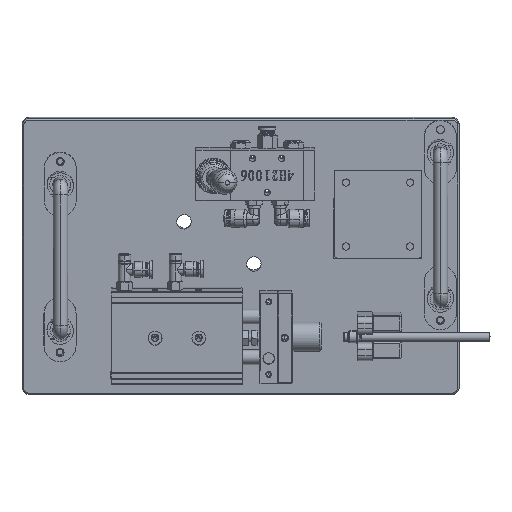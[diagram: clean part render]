
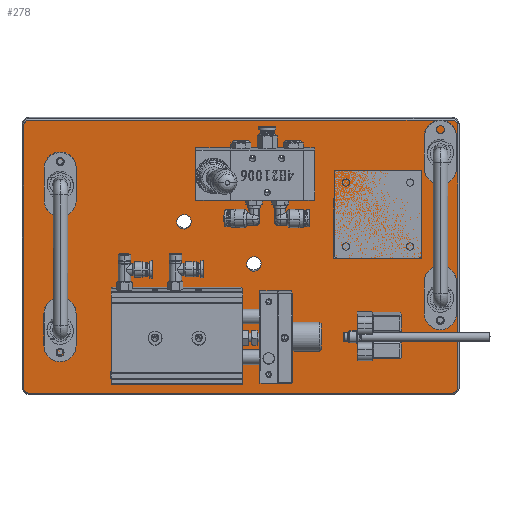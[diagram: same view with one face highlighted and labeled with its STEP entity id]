
A CAD part, top view. The second image highlights one B-rep face of the part: STEP entity #278.
In plain terms, the highlighted planar face has unit normal (0.006, -0.076, 0.997) as drawn and (0, 0, 1) by its records, which use the part's own axes.
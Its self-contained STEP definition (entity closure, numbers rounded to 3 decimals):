
#63=CARTESIAN_POINT('Axis2P3D Location',(0.,0.,12.)) ;
#68=CARTESIAN_POINT('Line Origine',(25.,-89.,12.)) ;
#72=CARTESIAN_POINT('Vertex',(-120.,-89.,12.)) ;
#74=CARTESIAN_POINT('Vertex',(170.,-89.,12.)) ;
#77=CARTESIAN_POINT('Axis2P3D Location',(170.,-85.,12.)) ;
#81=CARTESIAN_POINT('Vertex',(174.,-85.,12.)) ;
#84=CARTESIAN_POINT('Line Origine',(174.,5.,12.)) ;
#88=CARTESIAN_POINT('Vertex',(174.,95.,12.)) ;
#91=CARTESIAN_POINT('Axis2P3D Location',(170.,95.,12.)) ;
#95=CARTESIAN_POINT('Vertex',(170.,99.,12.)) ;
#98=CARTESIAN_POINT('Line Origine',(25.,99.,12.)) ;
#102=CARTESIAN_POINT('Vertex',(-120.,99.,12.)) ;
#105=CARTESIAN_POINT('Axis2P3D Location',(-120.,95.,12.)) ;
#109=CARTESIAN_POINT('Vertex',(-124.,95.,12.)) ;
#112=CARTESIAN_POINT('Line Origine',(-124.,5.,12.)) ;
#116=CARTESIAN_POINT('Vertex',(-124.,-85.,12.)) ;
#119=CARTESIAN_POINT('Axis2P3D Location',(-120.,-85.,12.)) ;
#134=CARTESIAN_POINT('Axis2P3D Location',(34.,0.,12.)) ;
#138=CARTESIAN_POINT('Vertex',(38.388,2.397,12.)) ;
#140=CARTESIAN_POINT('Vertex',(29.612,-2.397,12.)) ;
#143=CARTESIAN_POINT('Axis2P3D Location',(34.,0.,12.)) ;
#152=CARTESIAN_POINT('Axis2P3D Location',(-14.,29.,12.)) ;
#156=CARTESIAN_POINT('Vertex',(-18.388,31.397,12.)) ;
#158=CARTESIAN_POINT('Vertex',(-9.612,26.603,12.)) ;
#161=CARTESIAN_POINT('Axis2P3D Location',(-14.,29.,12.)) ;
#170=CARTESIAN_POINT('Axis2P3D Location',(9.468,48.752,12.)) ;
#174=CARTESIAN_POINT('Vertex',(11.768,47.495,12.)) ;
#176=CARTESIAN_POINT('Vertex',(7.168,50.008,12.)) ;
#179=CARTESIAN_POINT('Axis2P3D Location',(9.468,48.752,12.)) ;
#188=CARTESIAN_POINT('Axis2P3D Location',(-4.,-48.,12.)) ;
#192=CARTESIAN_POINT('Vertex',(-1.308,-49.47,12.)) ;
#194=CARTESIAN_POINT('Vertex',(-6.692,-46.53,12.)) ;
#197=CARTESIAN_POINT('Axis2P3D Location',(-4.,-48.,12.)) ;
#206=CARTESIAN_POINT('Axis2P3D Location',(-34.,-48.,12.)) ;
#210=CARTESIAN_POINT('Vertex',(-31.308,-49.47,12.)) ;
#212=CARTESIAN_POINT('Vertex',(-36.692,-46.53,12.)) ;
#215=CARTESIAN_POINT('Axis2P3D Location',(-34.,-48.,12.)) ;
#224=CARTESIAN_POINT('Axis2P3D Location',(53.,74.25,12.)) ;
#228=CARTESIAN_POINT('Vertex',(55.3,72.993,12.)) ;
#230=CARTESIAN_POINT('Vertex',(50.7,75.507,12.)) ;
#233=CARTESIAN_POINT('Axis2P3D Location',(53.,74.25,12.)) ;
#242=CARTESIAN_POINT('Axis2P3D Location',(33.,74.25,12.)) ;
#246=CARTESIAN_POINT('Vertex',(35.3,72.993,12.)) ;
#248=CARTESIAN_POINT('Vertex',(30.7,75.507,12.)) ;
#251=CARTESIAN_POINT('Axis2P3D Location',(33.,74.25,12.)) ;
#260=CARTESIAN_POINT('Axis2P3D Location',(43.,50.75,12.)) ;
#264=CARTESIAN_POINT('Vertex',(45.3,49.493,12.)) ;
#266=CARTESIAN_POINT('Vertex',(40.7,52.007,12.)) ;
#269=CARTESIAN_POINT('Axis2P3D Location',(43.,50.75,12.)) ;
#64=DIRECTION('Axis2P3D Direction',(0.,0.,1.)) ;
#65=DIRECTION('Axis2P3D XDirection',(1.,0.,0.)) ;
#69=DIRECTION('Vector Direction',(-1.,0.,0.)) ;
#78=DIRECTION('Axis2P3D Direction',(0.,0.,1.)) ;
#85=DIRECTION('Vector Direction',(0.,1.,0.)) ;
#92=DIRECTION('Axis2P3D Direction',(0.,0.,1.)) ;
#99=DIRECTION('Vector Direction',(1.,0.,0.)) ;
#106=DIRECTION('Axis2P3D Direction',(0.,0.,1.)) ;
#113=DIRECTION('Vector Direction',(0.,-1.,0.)) ;
#120=DIRECTION('Axis2P3D Direction',(0.,0.,1.)) ;
#135=DIRECTION('Axis2P3D Direction',(0.,0.,1.)) ;
#144=DIRECTION('Axis2P3D Direction',(0.,0.,1.)) ;
#153=DIRECTION('Axis2P3D Direction',(0.,0.,1.)) ;
#162=DIRECTION('Axis2P3D Direction',(0.,0.,1.)) ;
#171=DIRECTION('Axis2P3D Direction',(0.,0.,1.)) ;
#180=DIRECTION('Axis2P3D Direction',(0.,0.,1.)) ;
#189=DIRECTION('Axis2P3D Direction',(0.,0.,1.)) ;
#198=DIRECTION('Axis2P3D Direction',(0.,0.,1.)) ;
#207=DIRECTION('Axis2P3D Direction',(0.,0.,1.)) ;
#216=DIRECTION('Axis2P3D Direction',(0.,0.,1.)) ;
#225=DIRECTION('Axis2P3D Direction',(0.,0.,1.)) ;
#234=DIRECTION('Axis2P3D Direction',(0.,0.,1.)) ;
#243=DIRECTION('Axis2P3D Direction',(0.,0.,1.)) ;
#252=DIRECTION('Axis2P3D Direction',(0.,0.,1.)) ;
#261=DIRECTION('Axis2P3D Direction',(0.,0.,1.)) ;
#270=DIRECTION('Axis2P3D Direction',(0.,0.,1.)) ;
#66=AXIS2_PLACEMENT_3D('Plane Axis2P3D',#63,#64,#65) ;
#79=AXIS2_PLACEMENT_3D('Circle Axis2P3D',#77,#78,$) ;
#93=AXIS2_PLACEMENT_3D('Circle Axis2P3D',#91,#92,$) ;
#107=AXIS2_PLACEMENT_3D('Circle Axis2P3D',#105,#106,$) ;
#121=AXIS2_PLACEMENT_3D('Circle Axis2P3D',#119,#120,$) ;
#136=AXIS2_PLACEMENT_3D('Circle Axis2P3D',#134,#135,$) ;
#145=AXIS2_PLACEMENT_3D('Circle Axis2P3D',#143,#144,$) ;
#154=AXIS2_PLACEMENT_3D('Circle Axis2P3D',#152,#153,$) ;
#163=AXIS2_PLACEMENT_3D('Circle Axis2P3D',#161,#162,$) ;
#172=AXIS2_PLACEMENT_3D('Circle Axis2P3D',#170,#171,$) ;
#181=AXIS2_PLACEMENT_3D('Circle Axis2P3D',#179,#180,$) ;
#190=AXIS2_PLACEMENT_3D('Circle Axis2P3D',#188,#189,$) ;
#199=AXIS2_PLACEMENT_3D('Circle Axis2P3D',#197,#198,$) ;
#208=AXIS2_PLACEMENT_3D('Circle Axis2P3D',#206,#207,$) ;
#217=AXIS2_PLACEMENT_3D('Circle Axis2P3D',#215,#216,$) ;
#226=AXIS2_PLACEMENT_3D('Circle Axis2P3D',#224,#225,$) ;
#235=AXIS2_PLACEMENT_3D('Circle Axis2P3D',#233,#234,$) ;
#244=AXIS2_PLACEMENT_3D('Circle Axis2P3D',#242,#243,$) ;
#253=AXIS2_PLACEMENT_3D('Circle Axis2P3D',#251,#252,$) ;
#262=AXIS2_PLACEMENT_3D('Circle Axis2P3D',#260,#261,$) ;
#271=AXIS2_PLACEMENT_3D('Circle Axis2P3D',#269,#270,$) ;
#125=ORIENTED_EDGE('',*,*,#76,.T.) ;
#126=ORIENTED_EDGE('',*,*,#83,.T.) ;
#127=ORIENTED_EDGE('',*,*,#90,.T.) ;
#128=ORIENTED_EDGE('',*,*,#97,.T.) ;
#129=ORIENTED_EDGE('',*,*,#104,.T.) ;
#130=ORIENTED_EDGE('',*,*,#111,.T.) ;
#131=ORIENTED_EDGE('',*,*,#118,.T.) ;
#132=ORIENTED_EDGE('',*,*,#123,.T.) ;
#149=ORIENTED_EDGE('',*,*,#142,.F.) ;
#150=ORIENTED_EDGE('',*,*,#147,.F.) ;
#167=ORIENTED_EDGE('',*,*,#160,.F.) ;
#168=ORIENTED_EDGE('',*,*,#165,.F.) ;
#185=ORIENTED_EDGE('',*,*,#178,.F.) ;
#186=ORIENTED_EDGE('',*,*,#183,.F.) ;
#203=ORIENTED_EDGE('',*,*,#196,.F.) ;
#204=ORIENTED_EDGE('',*,*,#201,.F.) ;
#221=ORIENTED_EDGE('',*,*,#214,.F.) ;
#222=ORIENTED_EDGE('',*,*,#219,.F.) ;
#239=ORIENTED_EDGE('',*,*,#232,.F.) ;
#240=ORIENTED_EDGE('',*,*,#237,.F.) ;
#257=ORIENTED_EDGE('',*,*,#250,.F.) ;
#258=ORIENTED_EDGE('',*,*,#255,.F.) ;
#275=ORIENTED_EDGE('',*,*,#268,.F.) ;
#276=ORIENTED_EDGE('',*,*,#273,.F.) ;
#151=FACE_BOUND('',#148,.T.) ;
#169=FACE_BOUND('',#166,.T.) ;
#187=FACE_BOUND('',#184,.T.) ;
#205=FACE_BOUND('',#202,.T.) ;
#223=FACE_BOUND('',#220,.T.) ;
#241=FACE_BOUND('',#238,.T.) ;
#259=FACE_BOUND('',#256,.T.) ;
#277=FACE_BOUND('',#274,.T.) ;
#70=VECTOR('Line Direction',#69,1.) ;
#86=VECTOR('Line Direction',#85,1.) ;
#100=VECTOR('Line Direction',#99,1.) ;
#114=VECTOR('Line Direction',#113,1.) ;
#278=ADVANCED_FACE('\X2\96F64EF651E04F554F53\X0\',(#133,#151,#169,#187,#205,#223,#241,#259,#277),#67,.T.) ;
#80=CIRCLE('generated circle',#79,4.) ;
#94=CIRCLE('generated circle',#93,4.) ;
#108=CIRCLE('generated circle',#107,4.) ;
#122=CIRCLE('generated circle',#121,4.) ;
#137=CIRCLE('generated circle',#136,5.) ;
#146=CIRCLE('generated circle',#145,5.) ;
#155=CIRCLE('generated circle',#154,5.) ;
#164=CIRCLE('generated circle',#163,5.) ;
#173=CIRCLE('generated circle',#172,2.621) ;
#182=CIRCLE('generated circle',#181,2.621) ;
#191=CIRCLE('generated circle',#190,3.067) ;
#200=CIRCLE('generated circle',#199,3.067) ;
#209=CIRCLE('generated circle',#208,3.067) ;
#218=CIRCLE('generated circle',#217,3.067) ;
#227=CIRCLE('generated circle',#226,2.621) ;
#236=CIRCLE('generated circle',#235,2.621) ;
#245=CIRCLE('generated circle',#244,2.621) ;
#254=CIRCLE('generated circle',#253,2.621) ;
#263=CIRCLE('generated circle',#262,2.621) ;
#272=CIRCLE('generated circle',#271,2.621) ;
#76=EDGE_CURVE('',#73,#75,#71,.F.) ;
#83=EDGE_CURVE('',#75,#82,#80,.T.) ;
#90=EDGE_CURVE('',#82,#89,#87,.T.) ;
#97=EDGE_CURVE('',#89,#96,#94,.T.) ;
#104=EDGE_CURVE('',#96,#103,#101,.F.) ;
#111=EDGE_CURVE('',#103,#110,#108,.T.) ;
#118=EDGE_CURVE('',#110,#117,#115,.T.) ;
#123=EDGE_CURVE('',#117,#73,#122,.T.) ;
#142=EDGE_CURVE('',#139,#141,#137,.T.) ;
#147=EDGE_CURVE('',#141,#139,#146,.T.) ;
#160=EDGE_CURVE('',#157,#159,#155,.T.) ;
#165=EDGE_CURVE('',#159,#157,#164,.T.) ;
#178=EDGE_CURVE('',#175,#177,#173,.T.) ;
#183=EDGE_CURVE('',#177,#175,#182,.T.) ;
#196=EDGE_CURVE('',#193,#195,#191,.T.) ;
#201=EDGE_CURVE('',#195,#193,#200,.T.) ;
#214=EDGE_CURVE('',#211,#213,#209,.T.) ;
#219=EDGE_CURVE('',#213,#211,#218,.T.) ;
#232=EDGE_CURVE('',#229,#231,#227,.T.) ;
#237=EDGE_CURVE('',#231,#229,#236,.T.) ;
#250=EDGE_CURVE('',#247,#249,#245,.T.) ;
#255=EDGE_CURVE('',#249,#247,#254,.T.) ;
#268=EDGE_CURVE('',#265,#267,#263,.T.) ;
#273=EDGE_CURVE('',#267,#265,#272,.T.) ;
#124=EDGE_LOOP('',(#125,#126,#127,#128,#129,#130,#131,#132)) ;
#148=EDGE_LOOP('',(#149,#150)) ;
#166=EDGE_LOOP('',(#167,#168)) ;
#184=EDGE_LOOP('',(#185,#186)) ;
#202=EDGE_LOOP('',(#203,#204)) ;
#220=EDGE_LOOP('',(#221,#222)) ;
#238=EDGE_LOOP('',(#239,#240)) ;
#256=EDGE_LOOP('',(#257,#258)) ;
#274=EDGE_LOOP('',(#275,#276)) ;
#133=FACE_OUTER_BOUND('',#124,.T.) ;
#71=LINE('Line',#68,#70) ;
#87=LINE('Line',#84,#86) ;
#101=LINE('Line',#98,#100) ;
#115=LINE('Line',#112,#114) ;
#67=PLANE('Plane',#66) ;
#73=VERTEX_POINT('',#72) ;
#75=VERTEX_POINT('',#74) ;
#82=VERTEX_POINT('',#81) ;
#89=VERTEX_POINT('',#88) ;
#96=VERTEX_POINT('',#95) ;
#103=VERTEX_POINT('',#102) ;
#110=VERTEX_POINT('',#109) ;
#117=VERTEX_POINT('',#116) ;
#139=VERTEX_POINT('',#138) ;
#141=VERTEX_POINT('',#140) ;
#157=VERTEX_POINT('',#156) ;
#159=VERTEX_POINT('',#158) ;
#175=VERTEX_POINT('',#174) ;
#177=VERTEX_POINT('',#176) ;
#193=VERTEX_POINT('',#192) ;
#195=VERTEX_POINT('',#194) ;
#211=VERTEX_POINT('',#210) ;
#213=VERTEX_POINT('',#212) ;
#229=VERTEX_POINT('',#228) ;
#231=VERTEX_POINT('',#230) ;
#247=VERTEX_POINT('',#246) ;
#249=VERTEX_POINT('',#248) ;
#265=VERTEX_POINT('',#264) ;
#267=VERTEX_POINT('',#266) ;
